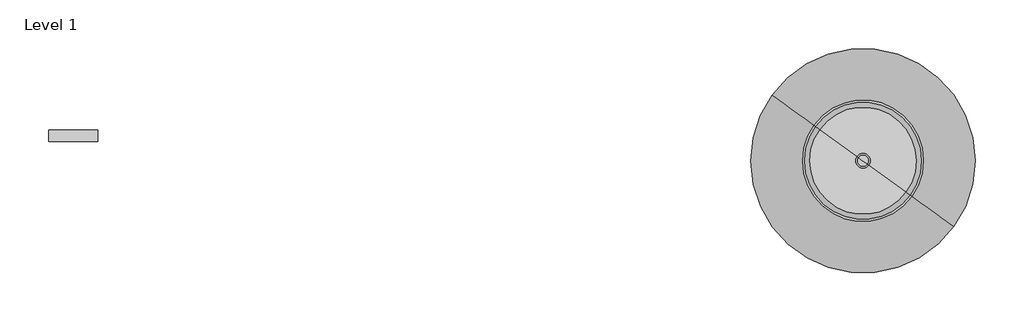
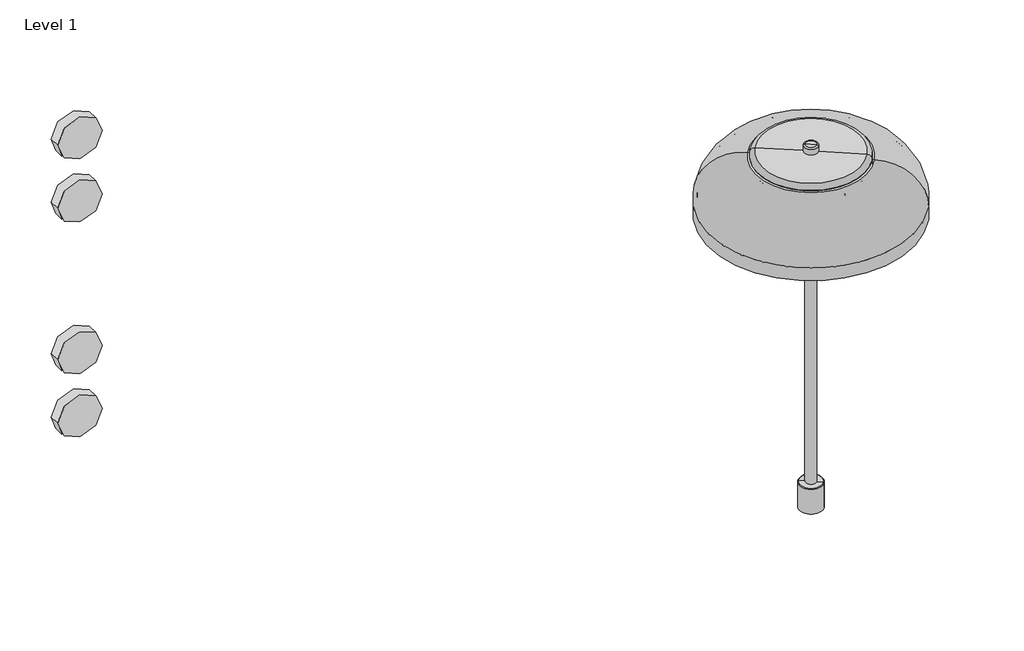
# One storey: 4 proxies, 1 light fixture.
"""IFC4 building model written with IfcOpenShell, lengths in millimetres."""

from ifc_helpers import new_model, si_unit, origin, place, context, project, spatial, transform, mapped, element, save
from components import materialmodel_materialmodel_d9ff14ed, light_fixture_ab9418f2

model = new_model("IFC4")

# Units and contexts
model_context = context("Model", 3, world=origin())
ifc_project = project(units=[si_unit("LENGTHUNIT", "METRE", prefix="MILLI")], contexts=[model_context])

# Site, building, storey
site = spatial("IfcSite", under=ifc_project)
building = spatial("IfcBuilding", under=site)
storey = spatial("IfcBuildingStorey", under=building, Name="Level 1", Elevation=0.0)

# Proxies
placement = place(None, origin())
materialmodel_materialmodel_shape = materialmodel_materialmodel_d9ff14ed(model_context)
element("IfcBuildingElementProxy", 1, Name="MaterialModel : MaterialModel", ObjectType="MaterialModel : MaterialModel", at=placement, inside=storey, context=model_context, shape_type="MappedRepresentation", body=[
    mapped(materialmodel_materialmodel_shape, transform((-14181.8938273, 5257.5863071, 552.2099026), x_axis=(1.0, 0.0, 0.0), y_axis=(0.0, 1.0, 0.0), z_axis=(0.0, 0.0, 1.0))),
])
element("IfcBuildingElementProxy", 2, Name="MaterialModel : MaterialModel", ObjectType="MaterialModel : MaterialModel", at=placement, inside=storey, context=model_context, shape_type="MappedRepresentation", body=[
    mapped(materialmodel_materialmodel_shape, transform((-14181.8938273, 5257.5863071, 477.2099026), x_axis=(1.0, 0.0, 0.0), y_axis=(0.0, 1.0, 0.0), z_axis=(0.0, 0.0, 1.0))),
])
element("IfcBuildingElementProxy", 3, Name="MaterialModel : MaterialModel", ObjectType="MaterialModel : MaterialModel", at=placement, inside=storey, context=model_context, shape_type="MappedRepresentation", body=[
    mapped(materialmodel_materialmodel_shape, transform((-14181.8938273, 5257.5863071, 807.2099026), x_axis=(1.0, 0.0, 0.0), y_axis=(0.0, 1.0, 0.0), z_axis=(0.0, 0.0, 1.0))),
])
element("IfcBuildingElementProxy", 4, Name="MaterialModel : MaterialModel", ObjectType="MaterialModel : MaterialModel", at=placement, inside=storey, context=model_context, shape_type="MappedRepresentation", body=[
    mapped(materialmodel_materialmodel_shape, transform((-14181.8938273, 5257.5863071, 732.2099026), x_axis=(1.0, 0.0, 0.0), y_axis=(0.0, 1.0, 0.0), z_axis=(0.0, 0.0, 1.0))),
])

# Light fixture
light_fixture_shape = light_fixture_ab9418f2(model_context)
element("IfcLightFixture", 5, ObjectType="Nuura - Blossi - Table In-Set : Nuura - Blossi - Table In-Set", at=placement, inside=storey, context=model_context, shape_type="MappedRepresentation", body=[
    mapped(light_fixture_shape, transform((-13372.5207912, 5226.0069548, 173.2082233), x_axis=(0.8098828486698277, -0.586591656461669, 0.0), y_axis=(0.586591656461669, 0.8098828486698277, 0.0), z_axis=(0.0, 0.0, 1.0))),
])

save(model, "model.ifc")
